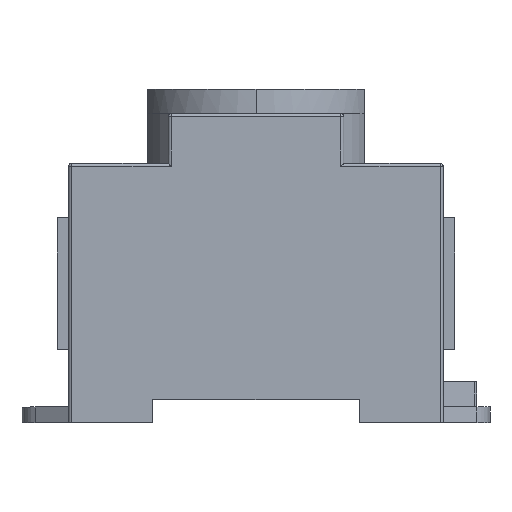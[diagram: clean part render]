
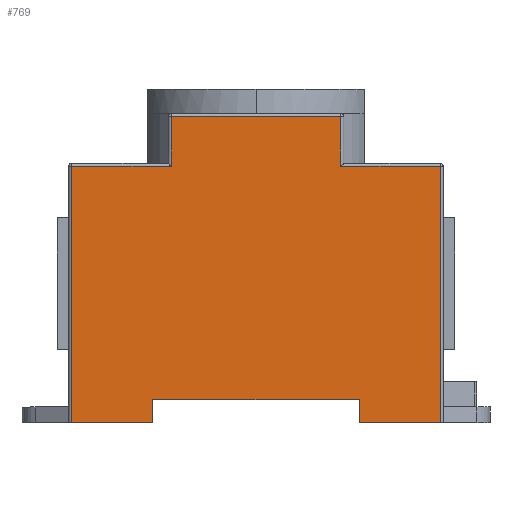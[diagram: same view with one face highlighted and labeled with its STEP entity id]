
A CAD part, top view. The second image highlights one B-rep face of the part: STEP entity #769.
In plain terms, the highlighted planar face has unit normal (0, 0, 1).
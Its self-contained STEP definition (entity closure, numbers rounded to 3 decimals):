
#16 = DIRECTION ( 'NONE',  ( -1., 0., 0. ) ) ;
#31 = CARTESIAN_POINT ( 'NONE',  ( 399.301, 129.516, 48. ) ) ;
#163 = VERTEX_POINT ( 'NONE', #5900 ) ;
#169 = AXIS2_PLACEMENT_3D ( 'NONE', #3527, #3478, #3457 ) ;
#281 = ORIENTED_EDGE ( 'NONE', *, *, #2586, .T. ) ;
#315 = VECTOR ( 'NONE', #4671, 1000. ) ;
#382 = CARTESIAN_POINT ( 'NONE',  ( 434.601, 129.516, 48. ) ) ;
#400 = EDGE_CURVE ( 'NONE', #2410, #5876, #634, .T. ) ;
#429 = DIRECTION ( 'NONE',  ( -1., 0., 0. ) ) ;
#476 = CARTESIAN_POINT ( 'NONE',  ( 416.951, 181.816, 48. ) ) ;
#569 = LINE ( 'NONE', #4749, #5509 ) ;
#607 = EDGE_CURVE ( 'NONE', #5773, #4852, #839, .T. ) ;
#614 = CARTESIAN_POINT ( 'NONE',  ( 385.451, 129.516, 48. ) ) ;
#634 = LINE ( 'NONE', #6153, #664 ) ;
#664 = VECTOR ( 'NONE', #5716, 1000. ) ;
#769 = ADVANCED_FACE ( 'NONE', ( #5682 ), #3508, .T. ) ;
#839 = LINE ( 'NONE', #2650, #847 ) ;
#847 = VECTOR ( 'NONE', #3134, 1000. ) ;
#869 = CARTESIAN_POINT ( 'NONE',  ( 431.451, 181.816, 48. ) ) ;
#923 = ORIENTED_EDGE ( 'NONE', *, *, #1805, .T. ) ;
#977 = ORIENTED_EDGE ( 'NONE', *, *, #1803, .T. ) ;
#1217 = CARTESIAN_POINT ( 'NONE',  ( 448.451, 173.316, 48. ) ) ;
#1314 = VERTEX_POINT ( 'NONE', #1217 ) ;
#1320 = CARTESIAN_POINT ( 'NONE',  ( 434.601, 129.516, 48. ) ) ;
#1340 = DIRECTION ( 'NONE',  ( 0., 1., 0. ) ) ;
#1356 = VECTOR ( 'NONE', #16, 1000. ) ;
#1445 = LINE ( 'NONE', #1320, #1783 ) ;
#1728 = CARTESIAN_POINT ( 'NONE',  ( 385.451, 173.316, 48. ) ) ;
#1744 = DIRECTION ( 'NONE',  ( -1., 0., 0. ) ) ;
#1783 = VECTOR ( 'NONE', #1340, 1000. ) ;
#1790 = EDGE_LOOP ( 'NONE', ( #281, #3502, #6300, #923, #977, #5798, #4743, #2397, #5035, #4208, #6466, #4034 ) ) ;
#1803 = EDGE_CURVE ( 'NONE', #2164, #5773, #569, .T. ) ;
#1805 = EDGE_CURVE ( 'NONE', #5495, #2164, #2564, .T. ) ;
#1906 = CARTESIAN_POINT ( 'NONE',  ( 402.451, 173.316, 48. ) ) ;
#2164 = VERTEX_POINT ( 'NONE', #1906 ) ;
#2339 = EDGE_CURVE ( 'NONE', #5876, #5495, #3041, .T. ) ;
#2356 = VECTOR ( 'NONE', #3391, 1000. ) ;
#2397 = ORIENTED_EDGE ( 'NONE', *, *, #5725, .F. ) ;
#2408 = DIRECTION ( 'NONE',  ( 0., 1., 0. ) ) ;
#2410 = VERTEX_POINT ( 'NONE', #2567 ) ;
#2564 = LINE ( 'NONE', #4690, #315 ) ;
#2567 = CARTESIAN_POINT ( 'NONE',  ( 431.451, 173.316, 48. ) ) ;
#2586 = EDGE_CURVE ( 'NONE', #1314, #2410, #3192, .T. ) ;
#2637 = EDGE_CURVE ( 'NONE', #6524, #5224, #3966, .T. ) ;
#2650 = CARTESIAN_POINT ( 'NONE',  ( 385.451, 154.743, 48. ) ) ;
#2708 = LINE ( 'NONE', #2872, #2356 ) ;
#2872 = CARTESIAN_POINT ( 'NONE',  ( 434.601, 133.516, 48. ) ) ;
#3041 = LINE ( 'NONE', #476, #3836 ) ;
#3134 = DIRECTION ( 'NONE',  ( 0., -1., 0. ) ) ;
#3192 = LINE ( 'NONE', #3788, #4509 ) ;
#3309 = LINE ( 'NONE', #6388, #3394 ) ;
#3358 = CARTESIAN_POINT ( 'NONE',  ( 448.451, 129.516, 48. ) ) ;
#3366 = CARTESIAN_POINT ( 'NONE',  ( 399.301, 133.516, 48. ) ) ;
#3377 = LINE ( 'NONE', #4937, #5565 ) ;
#3391 = DIRECTION ( 'NONE',  ( -1., 0., 0. ) ) ;
#3394 = VECTOR ( 'NONE', #6393, 1000. ) ;
#3457 = DIRECTION ( 'NONE',  ( 1., 0., 0. ) ) ;
#3478 = DIRECTION ( 'NONE',  ( 0., 0., 1. ) ) ;
#3502 = ORIENTED_EDGE ( 'NONE', *, *, #400, .T. ) ;
#3508 = PLANE ( 'NONE',  #169 ) ;
#3527 = CARTESIAN_POINT ( 'NONE',  ( 416.951, 154.743, 48. ) ) ;
#3715 = EDGE_CURVE ( 'NONE', #163, #6065, #2708, .T. ) ;
#3788 = CARTESIAN_POINT ( 'NONE',  ( 416.951, 173.316, 48. ) ) ;
#3836 = VECTOR ( 'NONE', #429, 1000. ) ;
#3966 = LINE ( 'NONE', #6335, #1356 ) ;
#4034 = ORIENTED_EDGE ( 'NONE', *, *, #4963, .T. ) ;
#4208 = ORIENTED_EDGE ( 'NONE', *, *, #4538, .F. ) ;
#4509 = VECTOR ( 'NONE', #1744, 1000. ) ;
#4538 = EDGE_CURVE ( 'NONE', #5224, #163, #1445, .T. ) ;
#4671 = DIRECTION ( 'NONE',  ( 0., -1., 0. ) ) ;
#4690 = CARTESIAN_POINT ( 'NONE',  ( 402.451, 154.743, 48. ) ) ;
#4743 = ORIENTED_EDGE ( 'NONE', *, *, #5027, .F. ) ;
#4749 = CARTESIAN_POINT ( 'NONE',  ( 416.951, 173.316, 48. ) ) ;
#4852 = VERTEX_POINT ( 'NONE', #614 ) ;
#4861 = VECTOR ( 'NONE', #5164, 1000. ) ;
#4937 = CARTESIAN_POINT ( 'NONE',  ( 448.451, 154.743, 48. ) ) ;
#4963 = EDGE_CURVE ( 'NONE', #6524, #1314, #3377, .T. ) ;
#5013 = CARTESIAN_POINT ( 'NONE',  ( 399.301, 129.516, 48. ) ) ;
#5027 = EDGE_CURVE ( 'NONE', #5462, #4852, #5229, .T. ) ;
#5035 = ORIENTED_EDGE ( 'NONE', *, *, #3715, .F. ) ;
#5164 = DIRECTION ( 'NONE',  ( -1., 0., 0. ) ) ;
#5224 = VERTEX_POINT ( 'NONE', #382 ) ;
#5229 = LINE ( 'NONE', #5013, #4861 ) ;
#5462 = VERTEX_POINT ( 'NONE', #31 ) ;
#5495 = VERTEX_POINT ( 'NONE', #6511 ) ;
#5509 = VECTOR ( 'NONE', #5729, 1000. ) ;
#5565 = VECTOR ( 'NONE', #2408, 1000. ) ;
#5682 = FACE_OUTER_BOUND ( 'NONE', #1790, .T. ) ;
#5716 = DIRECTION ( 'NONE',  ( 0., 1., 0. ) ) ;
#5725 = EDGE_CURVE ( 'NONE', #6065, #5462, #3309, .T. ) ;
#5729 = DIRECTION ( 'NONE',  ( -1., 0., 0. ) ) ;
#5773 = VERTEX_POINT ( 'NONE', #1728 ) ;
#5798 = ORIENTED_EDGE ( 'NONE', *, *, #607, .T. ) ;
#5876 = VERTEX_POINT ( 'NONE', #869 ) ;
#5900 = CARTESIAN_POINT ( 'NONE',  ( 434.601, 133.516, 48. ) ) ;
#6065 = VERTEX_POINT ( 'NONE', #3366 ) ;
#6153 = CARTESIAN_POINT ( 'NONE',  ( 431.451, 154.743, 48. ) ) ;
#6300 = ORIENTED_EDGE ( 'NONE', *, *, #2339, .T. ) ;
#6335 = CARTESIAN_POINT ( 'NONE',  ( 448.951, 129.516, 48. ) ) ;
#6388 = CARTESIAN_POINT ( 'NONE',  ( 399.301, 133.516, 48. ) ) ;
#6393 = DIRECTION ( 'NONE',  ( 0., -1., 0. ) ) ;
#6466 = ORIENTED_EDGE ( 'NONE', *, *, #2637, .F. ) ;
#6511 = CARTESIAN_POINT ( 'NONE',  ( 402.451, 181.816, 48. ) ) ;
#6524 = VERTEX_POINT ( 'NONE', #3358 ) ;
